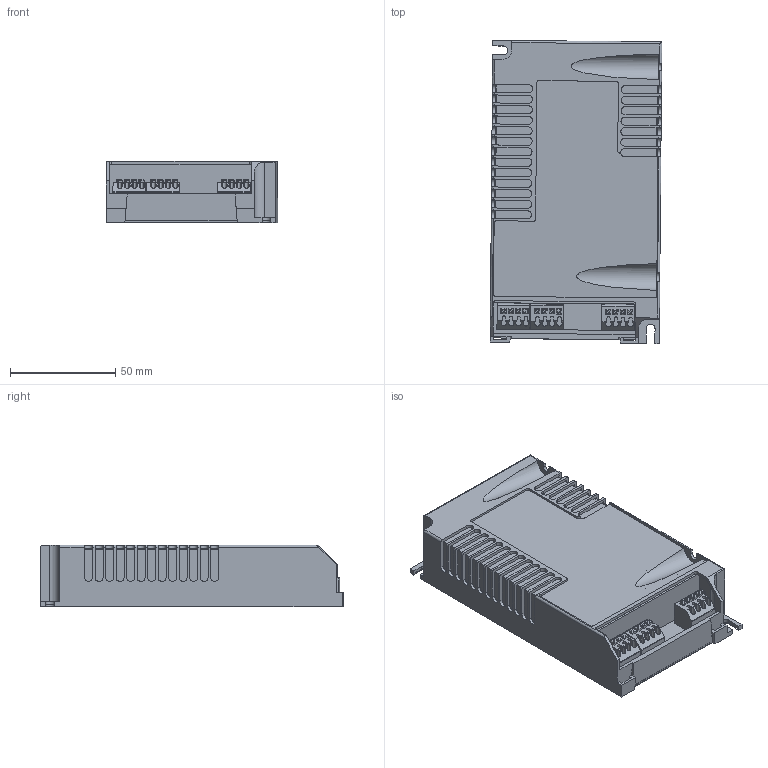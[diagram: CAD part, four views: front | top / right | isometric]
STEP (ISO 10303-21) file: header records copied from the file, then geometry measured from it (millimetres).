
FILE_DESCRIPTION((''),'2;1');
FILE_NAME('7760212_A_ASM','2014-04-06T',('asko'),(''),'PRO/ENGINEER BY PARAMETRIC TECHNOLOGY CORPORATION, 2012200','PRO/ENGINEER BY PARAMETRIC TECHNOLOGY CORPORATION, 2012200','');
FILE_SCHEMA(('CONFIG_CONTROL_DESIGN'));
Length unit declared in the file: millimetre
Products named in the file (5): 7760212; LC1X70_BOTTOM; PCB_7760212; WAGO_250_204_4; 7760212_A_ASM
Assembly tree (6 placements, depth 2):
  7760212_A_ASM
    7760212
    LC1X70_BOTTOM
    PCB_7760212
    WAGO_250_204_4  x3
Bounding box: 81.77 x 144.31 x 29.4 mm (x, y, z)
Volume: 55088.8 mm3; surface area: 104106.3 mm2
Topology: 6 solids, 6 shells, 599 faces, 1807 edges, 1178 vertices
Faces by surface type: plane 399, cylinder 200
Entity records: 15514 total; most frequent: CARTESIAN_POINT 3239, ORIENTED_EDGE 2698, DIRECTION 2415, EDGE_CURVE 1349, VECTOR 1067, LINE 1067, VERTEX_POINT 878, AXIS2_PLACEMENT_3D 674
